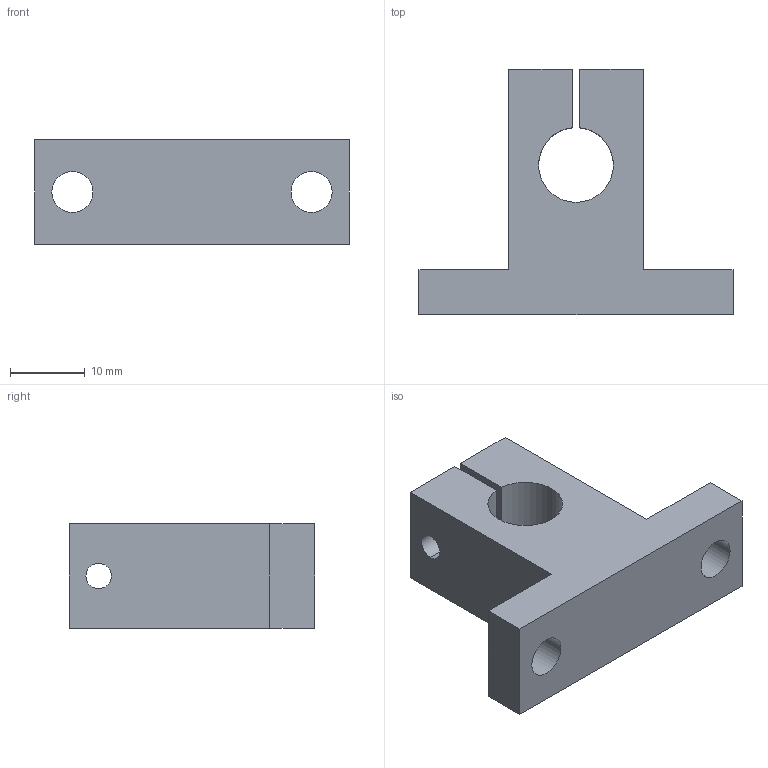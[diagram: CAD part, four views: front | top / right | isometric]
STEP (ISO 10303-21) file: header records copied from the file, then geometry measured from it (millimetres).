
FILE_DESCRIPTION((''),'2;1');
FILE_NAME('C:\Documents and Settings\ｿﾀﾀ蠑ｷ1\ｹﾙﾅﾁ ﾈｭｸ饅\ｺﾎﾇｰﾆﾄﾀﾏ\ﾁｦﾇｰ\SK\SK10.stp','2005-06-15T17:39:47',('ｿﾀﾀ蠑ｷ1'),(''),'Autodesk Inventor 9','Autodesk Inventor 9','');
FILE_SCHEMA(('AUTOMOTIVE_DESIGN { 1 0 10303 214 1 1 1 1 }'));
Length unit declared in the file: millimetre
Products named in the file (1): SK__
Bounding box: 42 x 32.8 x 14 mm (x, y, z)
Volume: 8473.7 mm3; surface area: 4330 mm2
Topology: 1 solids, 1 shells, 27 faces, 72 edges, 48 vertices
Faces by surface type: plane 13, bspline 11, cylinder 3
Entity records: 1021 total; most frequent: CARTESIAN_POINT 321, ORIENTED_EDGE 144, DIRECTION 132, EDGE_CURVE 72, VERTEX_POINT 48, VECTOR 46, LINE 46, AXIS2_PLACEMENT_3D 43
